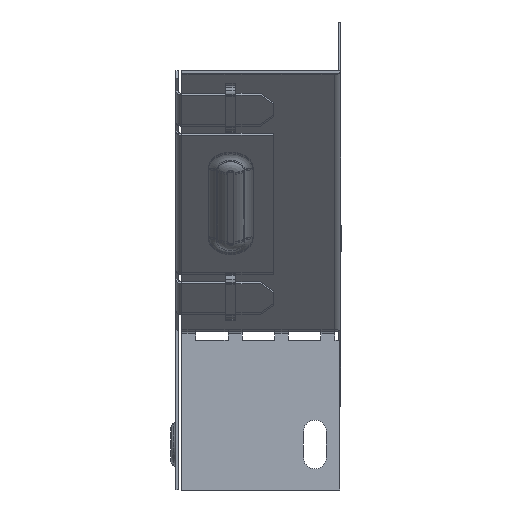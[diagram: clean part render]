
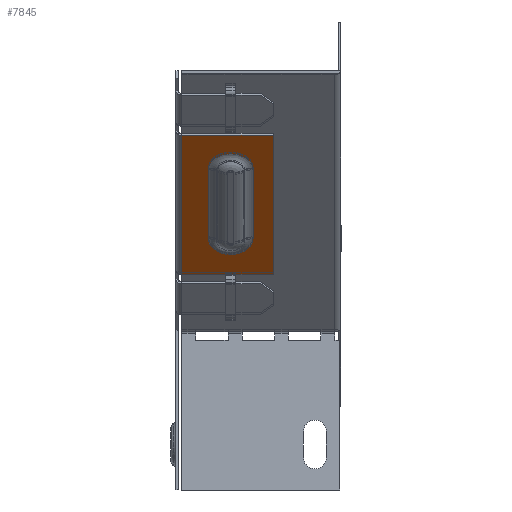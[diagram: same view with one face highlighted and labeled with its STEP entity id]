
A CAD part, left-side view. The second image highlights one B-rep face of the part: STEP entity #7845.
In plain terms, the highlighted planar face has unit normal (-0.707, 0, -0.707).
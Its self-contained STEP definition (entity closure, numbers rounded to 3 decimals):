
#17 = VECTOR ( 'NONE', #10237, 1000. ) ;
#100 = DIRECTION ( 'NONE',  ( 0.707, 0., -0.707 ) ) ;
#120 = ORIENTED_EDGE ( 'NONE', *, *, #14731, .T. ) ;
#1184 = VERTEX_POINT ( 'NONE', #17137 ) ;
#1470 = AXIS2_PLACEMENT_3D ( 'NONE', #7321, #14247, #4369 ) ;
#1615 = ORIENTED_EDGE ( 'NONE', *, *, #11675, .T. ) ;
#1657 = PLANE ( 'NONE',  #8785 ) ;
#2293 = CARTESIAN_POINT ( 'NONE',  ( -65.837, 20., -80.841 ) ) ;
#2429 = VERTEX_POINT ( 'NONE', #5527 ) ;
#2588 = CARTESIAN_POINT ( 'NONE',  ( -101.206, 40.017, -45.472 ) ) ;
#3662 = LINE ( 'NONE', #2293, #5481 ) ;
#3800 = DIRECTION ( 'NONE',  ( -0.707, 0., 0.707 ) ) ;
#3908 = VERTEX_POINT ( 'NONE', #2588 ) ;
#4086 = DIRECTION ( 'NONE',  ( 0., -1., 0. ) ) ;
#4369 = DIRECTION ( 'NONE',  ( 0.5, -0.707, -0.5 ) ) ;
#5316 = VECTOR ( 'NONE', #11198, 1000. ) ;
#5481 = VECTOR ( 'NONE', #16526, 1000. ) ;
#5527 = CARTESIAN_POINT ( 'NONE',  ( -79.993, 40.017, -66.685 ) ) ;
#5713 = ORIENTED_EDGE ( 'NONE', *, *, #16520, .T. ) ;
#5901 = VERTEX_POINT ( 'NONE', #12219 ) ;
#5928 = CARTESIAN_POINT ( 'NONE',  ( -111.823, 20., -34.855 ) ) ;
#6007 = EDGE_CURVE ( 'NONE', #1184, #2429, #15145, .T. ) ;
#6560 = ORIENTED_EDGE ( 'NONE', *, *, #8031, .T. ) ;
#6663 = CARTESIAN_POINT ( 'NONE',  ( -79.993, 33.1, -66.685 ) ) ;
#7321 = CARTESIAN_POINT ( 'NONE',  ( -101.206, 33.1, -45.472 ) ) ;
#7347 = CARTESIAN_POINT ( 'NONE',  ( -65.837, 50., -80.841 ) ) ;
#7772 = ORIENTED_EDGE ( 'NONE', *, *, #14202, .T. ) ;
#7845 = ADVANCED_FACE ( 'NONE', ( #14493, #11594 ), #1657, .F. ) ;
#7893 = CARTESIAN_POINT ( 'NONE',  ( -69.022, 20., -77.656 ) ) ;
#7916 = LINE ( 'NONE', #11403, #15091 ) ;
#8014 = VERTEX_POINT ( 'NONE', #9835 ) ;
#8031 = EDGE_CURVE ( 'NONE', #3908, #15867, #8583, .T. ) ;
#8158 = DIRECTION ( 'NONE',  ( 0.5, -0.707, -0.5 ) ) ;
#8352 = EDGE_CURVE ( 'NONE', #8014, #13916, #8798, .T. ) ;
#8366 = CARTESIAN_POINT ( 'NONE',  ( -79.993, 40.017, -66.685 ) ) ;
#8583 = CIRCLE ( 'NONE', #1470, 6.917 ) ;
#8785 = AXIS2_PLACEMENT_3D ( 'NONE', #7347, #15535, #100 ) ;
#8798 = LINE ( 'NONE', #10917, #16613 ) ;
#9121 = LINE ( 'NONE', #8366, #5316 ) ;
#9351 = CARTESIAN_POINT ( 'NONE',  ( -111.823, 48.2, -34.855 ) ) ;
#9637 = LINE ( 'NONE', #5928, #17 ) ;
#9835 = CARTESIAN_POINT ( 'NONE',  ( -69.022, 48.2, -77.656 ) ) ;
#10023 = DIRECTION ( 'NONE',  ( 0.707, 0., -0.707 ) ) ;
#10167 = EDGE_CURVE ( 'NONE', #5901, #13916, #9637, .T. ) ;
#10237 = DIRECTION ( 'NONE',  ( 0., 1., 0. ) ) ;
#10842 = ORIENTED_EDGE ( 'NONE', *, *, #10167, .T. ) ;
#10917 = CARTESIAN_POINT ( 'NONE',  ( -128.087, 48.2, -18.591 ) ) ;
#11198 = DIRECTION ( 'NONE',  ( -0.707, 0., 0.707 ) ) ;
#11403 = CARTESIAN_POINT ( 'NONE',  ( -79.993, 26.183, -66.685 ) ) ;
#11594 = FACE_OUTER_BOUND ( 'NONE', #13301, .T. ) ;
#11675 = EDGE_CURVE ( 'NONE', #8014, #15138, #16913, .T. ) ;
#12219 = CARTESIAN_POINT ( 'NONE',  ( -111.823, 20., -34.855 ) ) ;
#13301 = EDGE_LOOP ( 'NONE', ( #16959, #1615, #5713, #10842 ) ) ;
#13916 = VERTEX_POINT ( 'NONE', #9351 ) ;
#14202 = EDGE_CURVE ( 'NONE', #15867, #1184, #7916, .T. ) ;
#14233 = VECTOR ( 'NONE', #4086, 1000. ) ;
#14247 = DIRECTION ( 'NONE',  ( 0.707, 0., 0.707 ) ) ;
#14493 = FACE_BOUND ( 'NONE', #16079, .T. ) ;
#14731 = EDGE_CURVE ( 'NONE', #2429, #3908, #9121, .T. ) ;
#15091 = VECTOR ( 'NONE', #10023, 1000. ) ;
#15138 = VERTEX_POINT ( 'NONE', #7893 ) ;
#15145 = CIRCLE ( 'NONE', #15477, 6.917 ) ;
#15477 = AXIS2_PLACEMENT_3D ( 'NONE', #6663, #18055, #8158 ) ;
#15535 = DIRECTION ( 'NONE',  ( 0.707, 0., 0.707 ) ) ;
#15854 = ORIENTED_EDGE ( 'NONE', *, *, #6007, .T. ) ;
#15867 = VERTEX_POINT ( 'NONE', #16223 ) ;
#16079 = EDGE_LOOP ( 'NONE', ( #7772, #15854, #120, #6560 ) ) ;
#16223 = CARTESIAN_POINT ( 'NONE',  ( -101.206, 26.183, -45.472 ) ) ;
#16520 = EDGE_CURVE ( 'NONE', #15138, #5901, #3662, .T. ) ;
#16526 = DIRECTION ( 'NONE',  ( -0.707, 0., 0.707 ) ) ;
#16613 = VECTOR ( 'NONE', #3800, 1000. ) ;
#16913 = LINE ( 'NONE', #18402, #14233 ) ;
#16959 = ORIENTED_EDGE ( 'NONE', *, *, #8352, .F. ) ;
#17137 = CARTESIAN_POINT ( 'NONE',  ( -79.993, 26.183, -66.685 ) ) ;
#18055 = DIRECTION ( 'NONE',  ( 0.707, 0., 0.707 ) ) ;
#18402 = CARTESIAN_POINT ( 'NONE',  ( -69.022, 20., -77.656 ) ) ;
